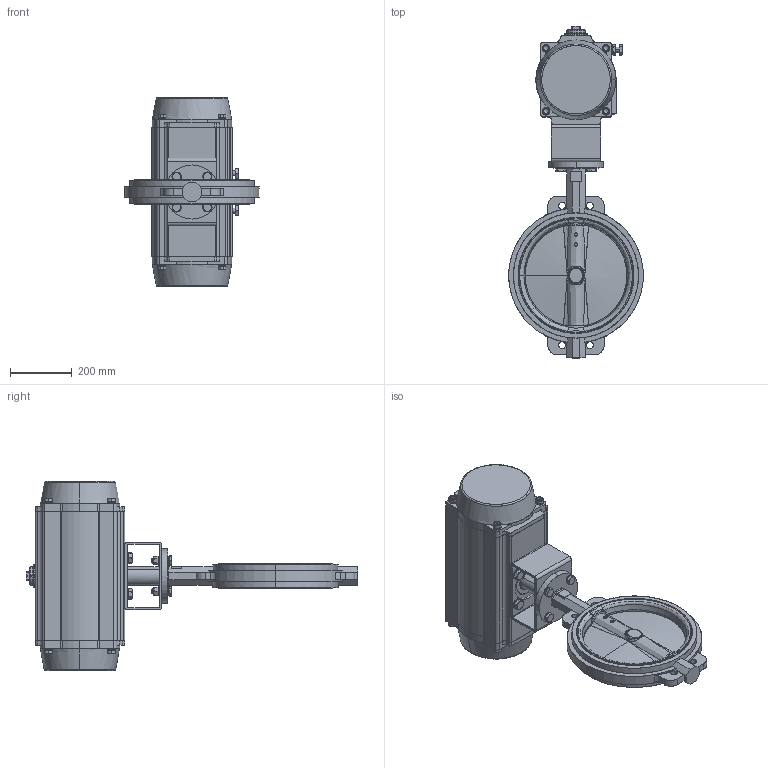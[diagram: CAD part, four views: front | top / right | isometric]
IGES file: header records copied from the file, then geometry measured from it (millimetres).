
Start section: SolidWorks IGES file using analytic representation for surfaces
Global section: file name: H:\BE BIBLIOTHEQUE 3D\BE SECTION 01 - ROBINETS A PAPILLON_VANNES PASSAGE DIRECTE\VP - Vanne Papillon\VPE\WORLDVALVE\WAFER\TECLARGE\VPE440X-N07\DN350\VPE440X-N07XX0350.IGS; native system: SolidWorks 2017; preprocessor: SolidWorks 2017; author: k.gigout; date: 200903.175353; units: millimetre
Bounding box: 436 x 1074.5 x 612 mm (x, y, z)
Surface area: 1717328.8 mm2 (no closed solid volume)
Topology: 0 solids, 0 shells, 778 faces, 16088 edges, 16086 vertices
Faces by surface type: bspline 392, revolution 386
